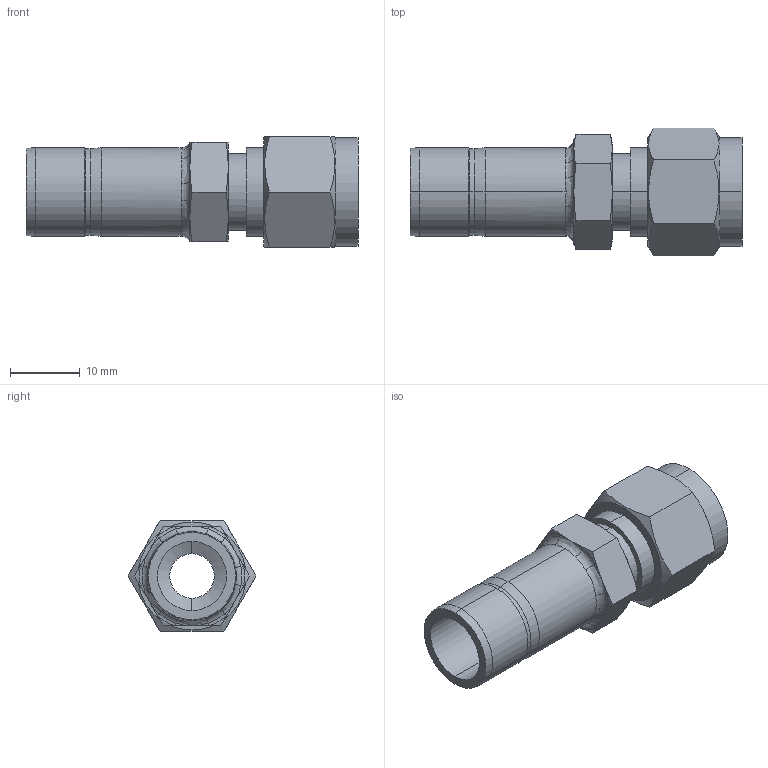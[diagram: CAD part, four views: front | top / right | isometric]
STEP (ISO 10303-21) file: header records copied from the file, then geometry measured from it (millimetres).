
FILE_DESCRIPTION (( 'STEP AP203' ), '1' );
FILE_NAME ('DRE05-08 SS.STEP', '2009-09-08T08:37:45', ( ' ' ), ( '' ), 'SwSTEP 2.0', 'SolidWorks 2008', '' );
FILE_SCHEMA (( 'CONFIG_CONTROL_DESIGN' ));
Length unit declared in the file: millimetre
Products named in the file (1): DRE05-08 SS
Bounding box: 47.6 x 18.34 x 15.88 mm (x, y, z)
Volume: 4399.9 mm3; surface area: 3920.5 mm2
Topology: 1 solids, 1 shells, 78 faces, 176 edges, 104 vertices
Faces by surface type: cone 24, plane 24, cylinder 18, bspline 6, torus 6
Entity records: 2589 total; most frequent: CARTESIAN_POINT 833, ORIENTED_EDGE 352, DIRECTION 348, EDGE_CURVE 176, AXIS2_PLACEMENT_3D 147, VERTEX_POINT 104, EDGE_LOOP 84, FACE_OUTER_BOUND 78
